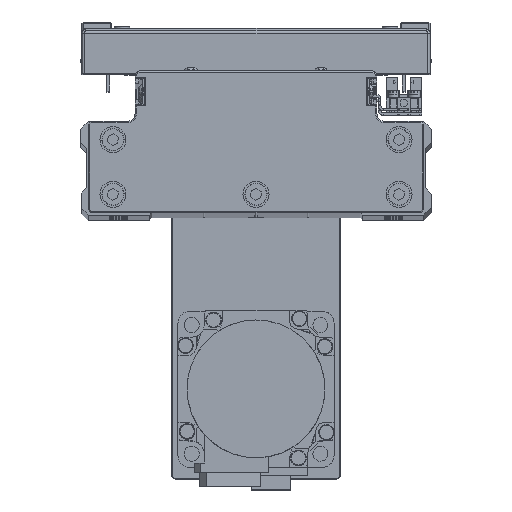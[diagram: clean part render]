
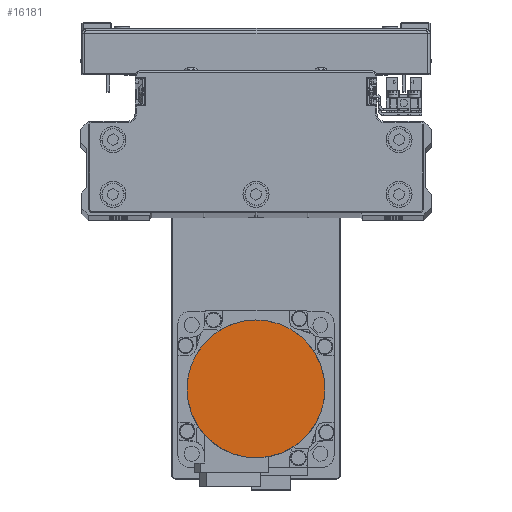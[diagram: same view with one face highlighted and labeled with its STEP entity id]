
A CAD part, top view. The second image highlights one B-rep face of the part: STEP entity #16181.
In plain terms, the highlighted planar face has unit normal (0, 0, 1) as drawn and (0, 0, -1) by its records, which use the part's own axes.
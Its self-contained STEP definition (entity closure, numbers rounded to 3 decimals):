
#272 = CARTESIAN_POINT ( 'NONE',  ( -26.329, -3.469, -109.7 ) ) ;
#392 = PLANE ( 'NONE',  #14988 ) ;
#453 = ORIENTED_EDGE ( 'NONE', *, *, #17134, .F. ) ;
#500 = CARTESIAN_POINT ( 'NONE',  ( -3.469, -26.329, -109.7 ) ) ;
#725 = CARTESIAN_POINT ( 'NONE',  ( 23.819, -11.744, -109.7 ) ) ;
#732 = ORIENTED_EDGE ( 'NONE', *, *, #8263, .F. ) ;
#765 = CARTESIAN_POINT ( 'NONE',  ( 17.512, 19.965, -109.7 ) ) ;
#978 = CARTESIAN_POINT ( 'NONE',  ( -13.28, 22.998, -109.7 ) ) ;
#3879 = CARTESIAN_POINT ( 'NONE',  ( -11.744, -23.819, -109.7 ) ) ;
#4098 = CARTESIAN_POINT ( 'NONE',  ( 19.965, -17.512, -109.7 ) ) ;
#4144 = CARTESIAN_POINT ( 'NONE',  ( 22.998, 13.28, -109.7 ) ) ;
#4366 = CARTESIAN_POINT ( 'NONE',  ( -6.871, 25.652, -109.7 ) ) ;
#4430 = B_SPLINE_CURVE_WITH_KNOTS ( 'NONE', 3,
 ( #17388, #31143, #272, #14006, #27737, #41569, #10647, #24357, #38172, #7273, #20988, #34761, #3879, #17605, #31363, #500, #14237, #27969, #41802, #10875, #24578, #38387, #7487, #21208, #34977, #4098, #17825, #31601, #725, #14453, #28187, #42014, #11091, #24803 ),
 .UNSPECIFIED., .F., .F.,
 ( 4, 2, 2, 2, 2, 2, 2, 2, 2, 2, 2, 2, 2, 2, 2, 2, 4 ),
 ( 0., 0.063, 0.125, 0.188, 0.25, 0.312, 0.375, 0.437, 0.5, 0.562, 0.625, 0.687, 0.75, 0.813, 0.875, 0.938, 1. ),
 .UNSPECIFIED. ) ;
#4573 = CARTESIAN_POINT ( 'NONE',  ( -26.5, 1.734, -109.7 ) ) ;
#6298 = VERTEX_POINT ( 'NONE', #15909 ) ;
#7273 = CARTESIAN_POINT ( 'NONE',  ( -17.512, -19.965, -109.7 ) ) ;
#7487 = CARTESIAN_POINT ( 'NONE',  ( 13.28, -22.998, -109.7 ) ) ;
#7528 = CARTESIAN_POINT ( 'NONE',  ( 25.652, 6.871, -109.7 ) ) ;
#7755 = CARTESIAN_POINT ( 'NONE',  ( 1.734, 26.5, -109.7 ) ) ;
#7967 = CARTESIAN_POINT ( 'NONE',  ( -25.147, 8.539, -109.7 ) ) ;
#8263 = EDGE_CURVE ( 'NONE', #35035, #6298, #41539, .T. ) ;
#10647 = CARTESIAN_POINT ( 'NONE',  ( -22.998, -13.28, -109.7 ) ) ;
#10875 = CARTESIAN_POINT ( 'NONE',  ( 6.871, -25.652, -109.7 ) ) ;
#10912 = CARTESIAN_POINT ( 'NONE',  ( 26.5, 0., -109.7 ) ) ;
#11091 = CARTESIAN_POINT ( 'NONE',  ( 26.5, -1.734, -109.7 ) ) ;
#11132 = CARTESIAN_POINT ( 'NONE',  ( 8.539, 25.147, -109.7 ) ) ;
#11354 = CARTESIAN_POINT ( 'NONE',  ( -21.07, 16.165, -109.7 ) ) ;
#14006 = CARTESIAN_POINT ( 'NONE',  ( -25.652, -6.871, -109.7 ) ) ;
#14129 = CARTESIAN_POINT ( 'NONE',  ( 0., 0., -109.7 ) ) ;
#14237 = CARTESIAN_POINT ( 'NONE',  ( -1.734, -26.5, -109.7 ) ) ;
#14453 = CARTESIAN_POINT ( 'NONE',  ( 25.147, -8.539, -109.7 ) ) ;
#14490 = CARTESIAN_POINT ( 'NONE',  ( 16.165, 21.07, -109.7 ) ) ;
#14710 = CARTESIAN_POINT ( 'NONE',  ( -16.165, 21.07, -109.7 ) ) ;
#14988 = AXIS2_PLACEMENT_3D ( 'NONE', #14129, #27866, #41698 ) ;
#15909 = CARTESIAN_POINT ( 'NONE',  ( -26.5, 0., -109.7 ) ) ;
#16181 = ADVANCED_FACE ( 'NONE', ( #31259 ), #392, .F. ) ;
#17134 = EDGE_CURVE ( 'NONE', #6298, #35035, #4430, .T. ) ;
#17388 = CARTESIAN_POINT ( 'NONE',  ( -26.5, 0., -109.7 ) ) ;
#17605 = CARTESIAN_POINT ( 'NONE',  ( -8.539, -25.147, -109.7 ) ) ;
#17825 = CARTESIAN_POINT ( 'NONE',  ( 21.07, -16.165, -109.7 ) ) ;
#17870 = CARTESIAN_POINT ( 'NONE',  ( 21.07, 16.165, -109.7 ) ) ;
#18082 = CARTESIAN_POINT ( 'NONE',  ( -8.539, 25.147, -109.7 ) ) ;
#18304 = CARTESIAN_POINT ( 'NONE',  ( -26.5, 0., -109.7 ) ) ;
#20988 = CARTESIAN_POINT ( 'NONE',  ( -16.165, -21.07, -109.7 ) ) ;
#21208 = CARTESIAN_POINT ( 'NONE',  ( 16.165, -21.07, -109.7 ) ) ;
#21252 = CARTESIAN_POINT ( 'NONE',  ( 25.147, 8.539, -109.7 ) ) ;
#21470 = CARTESIAN_POINT ( 'NONE',  ( -1.734, 26.5, -109.7 ) ) ;
#21684 = CARTESIAN_POINT ( 'NONE',  ( -25.652, 6.871, -109.7 ) ) ;
#24357 = CARTESIAN_POINT ( 'NONE',  ( -21.07, -16.165, -109.7 ) ) ;
#24578 = CARTESIAN_POINT ( 'NONE',  ( 8.539, -25.147, -109.7 ) ) ;
#24613 = CARTESIAN_POINT ( 'NONE',  ( 26.5, 1.734, -109.7 ) ) ;
#24803 = CARTESIAN_POINT ( 'NONE',  ( 26.5, 0., -109.7 ) ) ;
#24839 = CARTESIAN_POINT ( 'NONE',  ( 6.871, 25.652, -109.7 ) ) ;
#25068 = CARTESIAN_POINT ( 'NONE',  ( -22.998, 13.28, -109.7 ) ) ;
#27737 = CARTESIAN_POINT ( 'NONE',  ( -25.147, -8.539, -109.7 ) ) ;
#27866 = DIRECTION ( 'NONE',  ( 0., 0., 1. ) ) ;
#27969 = CARTESIAN_POINT ( 'NONE',  ( 1.734, -26.5, -109.7 ) ) ;
#28187 = CARTESIAN_POINT ( 'NONE',  ( 25.652, -6.871, -109.7 ) ) ;
#28225 = CARTESIAN_POINT ( 'NONE',  ( 13.28, 22.998, -109.7 ) ) ;
#28450 = CARTESIAN_POINT ( 'NONE',  ( -17.512, 19.965, -109.7 ) ) ;
#31143 = CARTESIAN_POINT ( 'NONE',  ( -26.5, -1.734, -109.7 ) ) ;
#31259 = FACE_OUTER_BOUND ( 'NONE', #42149, .T. ) ;
#31363 = CARTESIAN_POINT ( 'NONE',  ( -6.871, -25.652, -109.7 ) ) ;
#31601 = CARTESIAN_POINT ( 'NONE',  ( 22.998, -13.28, -109.7 ) ) ;
#31641 = CARTESIAN_POINT ( 'NONE',  ( 19.965, 17.512, -109.7 ) ) ;
#31842 = CARTESIAN_POINT ( 'NONE',  ( -11.744, 23.819, -109.7 ) ) ;
#34761 = CARTESIAN_POINT ( 'NONE',  ( -13.28, -22.998, -109.7 ) ) ;
#34977 = CARTESIAN_POINT ( 'NONE',  ( 17.512, -19.965, -109.7 ) ) ;
#35027 = CARTESIAN_POINT ( 'NONE',  ( 23.819, 11.744, -109.7 ) ) ;
#35035 = VERTEX_POINT ( 'NONE', #42200 ) ;
#35248 = CARTESIAN_POINT ( 'NONE',  ( -3.469, 26.329, -109.7 ) ) ;
#35457 = CARTESIAN_POINT ( 'NONE',  ( -26.329, 3.469, -109.7 ) ) ;
#38172 = CARTESIAN_POINT ( 'NONE',  ( -19.965, -17.512, -109.7 ) ) ;
#38387 = CARTESIAN_POINT ( 'NONE',  ( 11.744, -23.819, -109.7 ) ) ;
#38426 = CARTESIAN_POINT ( 'NONE',  ( 26.329, 3.469, -109.7 ) ) ;
#38649 = CARTESIAN_POINT ( 'NONE',  ( 3.469, 26.329, -109.7 ) ) ;
#38870 = CARTESIAN_POINT ( 'NONE',  ( -23.819, 11.744, -109.7 ) ) ;
#41539 = B_SPLINE_CURVE_WITH_KNOTS ( 'NONE', 3,
 ( #10912, #24613, #38426, #7528, #21252, #35027, #4144, #17870, #31641, #765, #14490, #28225, #42054, #11132, #24839, #38649, #7755, #21470, #35248, #4366, #18082, #31842, #978, #14710, #28450, #42280, #11354, #25068, #38870, #7967, #21684, #35457, #4573, #18304 ),
 .UNSPECIFIED., .F., .F.,
 ( 4, 2, 2, 2, 2, 2, 2, 2, 2, 2, 2, 2, 2, 2, 2, 2, 4 ),
 ( 0., 0.062, 0.125, 0.187, 0.25, 0.312, 0.375, 0.437, 0.5, 0.562, 0.625, 0.687, 0.75, 0.813, 0.875, 0.938, 1. ),
 .UNSPECIFIED. ) ;
#41569 = CARTESIAN_POINT ( 'NONE',  ( -23.819, -11.744, -109.7 ) ) ;
#41698 = DIRECTION ( 'NONE',  ( 1., 0., 0. ) ) ;
#41802 = CARTESIAN_POINT ( 'NONE',  ( 3.469, -26.329, -109.7 ) ) ;
#42014 = CARTESIAN_POINT ( 'NONE',  ( 26.329, -3.469, -109.7 ) ) ;
#42054 = CARTESIAN_POINT ( 'NONE',  ( 11.744, 23.819, -109.7 ) ) ;
#42149 = EDGE_LOOP ( 'NONE', ( #732, #453 ) ) ;
#42200 = CARTESIAN_POINT ( 'NONE',  ( 26.5, 0., -109.7 ) ) ;
#42280 = CARTESIAN_POINT ( 'NONE',  ( -19.965, 17.512, -109.7 ) ) ;
